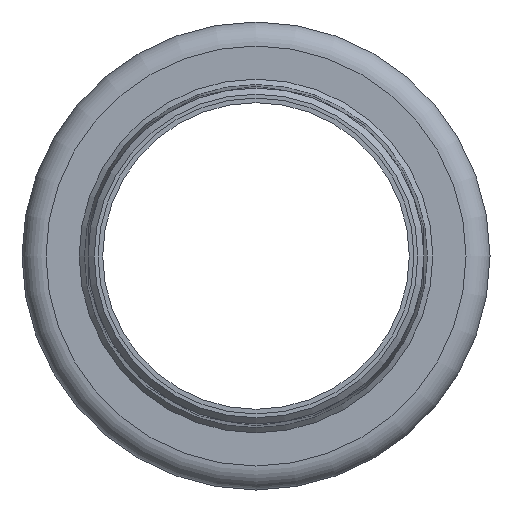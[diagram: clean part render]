
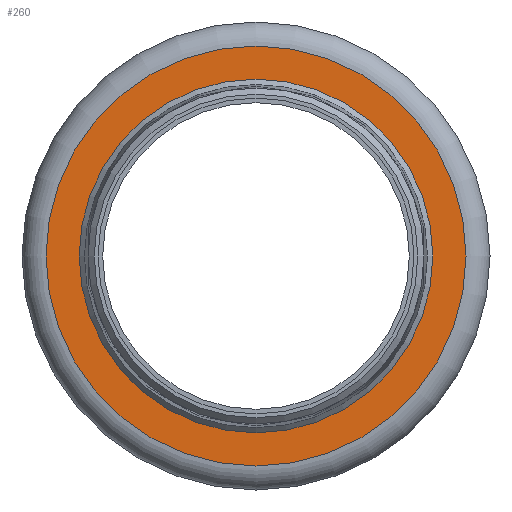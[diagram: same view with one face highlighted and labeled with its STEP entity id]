
A CAD part, front view. The second image highlights one B-rep face of the part: STEP entity #260.
In plain terms, the highlighted planar face has unit normal (0, -1, 0).
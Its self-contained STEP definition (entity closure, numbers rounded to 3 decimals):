
#55=PLANE('',#315);
#88=ORIENTED_EDGE('',*,*,#114,.T.);
#89=ORIENTED_EDGE('',*,*,#113,.F.);
#113=EDGE_CURVE('',#133,#133,#153,.T.);
#114=EDGE_CURVE('',#134,#134,#154,.T.);
#133=VERTEX_POINT('',#464);
#134=VERTEX_POINT('',#467);
#153=CIRCLE('',#314,57.15);
#154=CIRCLE('',#316,70.);
#188=EDGE_LOOP('',(#88));
#189=EDGE_LOOP('',(#89));
#228=FACE_BOUND('',#188,.T.);
#229=FACE_BOUND('',#189,.T.);
#260=ADVANCED_FACE('',(#228,#229),#55,.T.);
#314=AXIS2_PLACEMENT_3D('',#463,#394,#395);
#315=AXIS2_PLACEMENT_3D('',#465,#396,#397);
#316=AXIS2_PLACEMENT_3D('',#466,#398,#399);
#394=DIRECTION('',(0.,-1.,0.));
#395=DIRECTION('',(0.,0.,-1.));
#396=DIRECTION('',(0.,-1.,0.));
#397=DIRECTION('',(0.,0.,-1.));
#398=DIRECTION('',(0.,-1.,0.));
#399=DIRECTION('',(0.,0.,-1.));
#463=CARTESIAN_POINT('',(0.,0.,0.));
#464=CARTESIAN_POINT('',(0.,0.,-57.15));
#465=CARTESIAN_POINT('',(0.,0.,57.15));
#466=CARTESIAN_POINT('',(0.,0.,0.));
#467=CARTESIAN_POINT('',(0.,0.,-70.));
